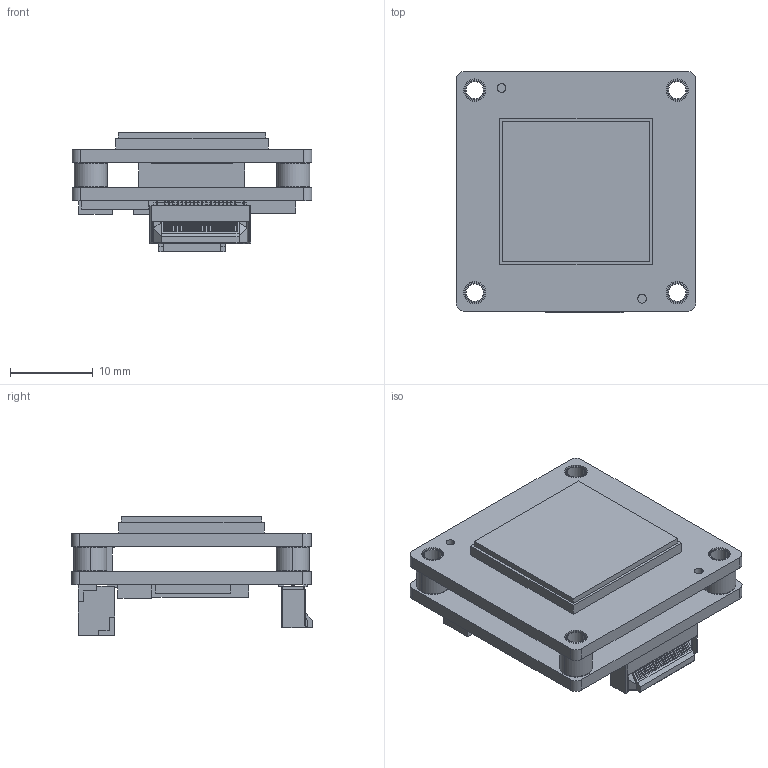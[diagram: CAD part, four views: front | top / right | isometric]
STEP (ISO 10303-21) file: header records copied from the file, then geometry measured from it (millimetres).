
FILE_DESCRIPTION (( 'STEP AP214' ), '1' );
FILE_NAME ('BFS-U3-50S5M(C)-BD2.STEP', '2018-09-24T16:43:10', ( '' ), ( '' ), 'SwSTEP 2.0', 'SolidWorks 2017', '' );
FILE_SCHEMA (( 'AUTOMOTIVE_DESIGN' ));
Length unit declared in the file: millimetre
Products named in the file (1): BFS-U3-50S5M(C)-BD2
Bounding box: 29 x 29.14 x 14.42 mm (x, y, z)
Volume: 4155.7 mm3; surface area: 7419.8 mm2
Topology: 19 solids, 19 shells, 1059 faces, 2852 edges, 1876 vertices
Faces by surface type: plane 829, cylinder 198, cone 24, bspline 8
Entity records: 45465 total; most frequent: CARTESIAN_POINT 6692, ORIENTED_EDGE 5704, DIRECTION 5326, EDGE_CURVE 2852, VECTOR 2402, LINE 2402, VERTEX_POINT 1876, AXIS2_PLACEMENT_3D 1462
